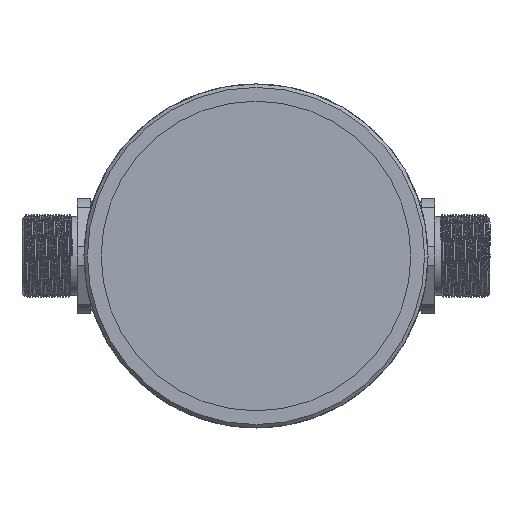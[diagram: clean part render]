
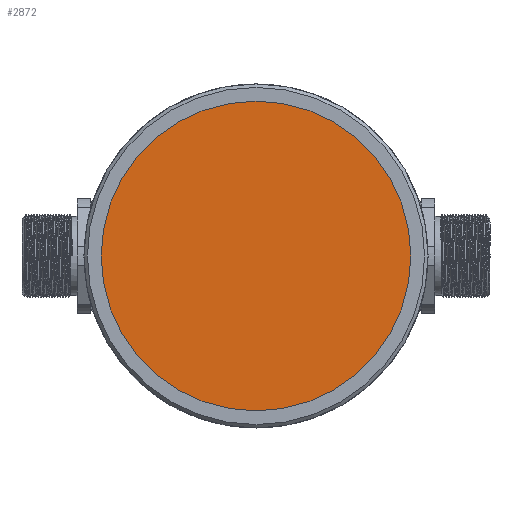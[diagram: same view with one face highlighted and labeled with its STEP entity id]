
A CAD part, left-side view. The second image highlights one B-rep face of the part: STEP entity #2872.
In plain terms, the highlighted planar face has unit normal (-1, 0, 0).
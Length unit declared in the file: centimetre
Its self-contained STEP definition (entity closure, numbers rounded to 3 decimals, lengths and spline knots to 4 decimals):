
#1021=PLANE('',#3053);
#1093=VERTEX_POINT('',#3761);
#1311=CIRCLE('',#3051,2.25);
#1406=EDGE_CURVE('',#1093,#1093,#1311,.T.);
#1760=ORIENTED_EDGE('',*,*,#1406,.T.);
#2438=EDGE_LOOP('',(#1760));
#2657=FACE_BOUND('',#2438,.T.);
#2872=ADVANCED_FACE('',(#2657),#1021,.T.);
#3051=AXIS2_PLACEMENT_3D('',#3760,#3283,#3284);
#3053=AXIS2_PLACEMENT_3D('',#3764,#3287,$);
#3283=DIRECTION('',(-1.,0.,0.));
#3284=DIRECTION('',(0.,0.,2.25));
#3287=DIRECTION('',(-1.,0.,0.));
#3760=CARTESIAN_POINT('',(0.1,0.,0.));
#3761=CARTESIAN_POINT('',(0.1,0.,2.25));
#3764=CARTESIAN_POINT('',(0.1,0.,0.));
